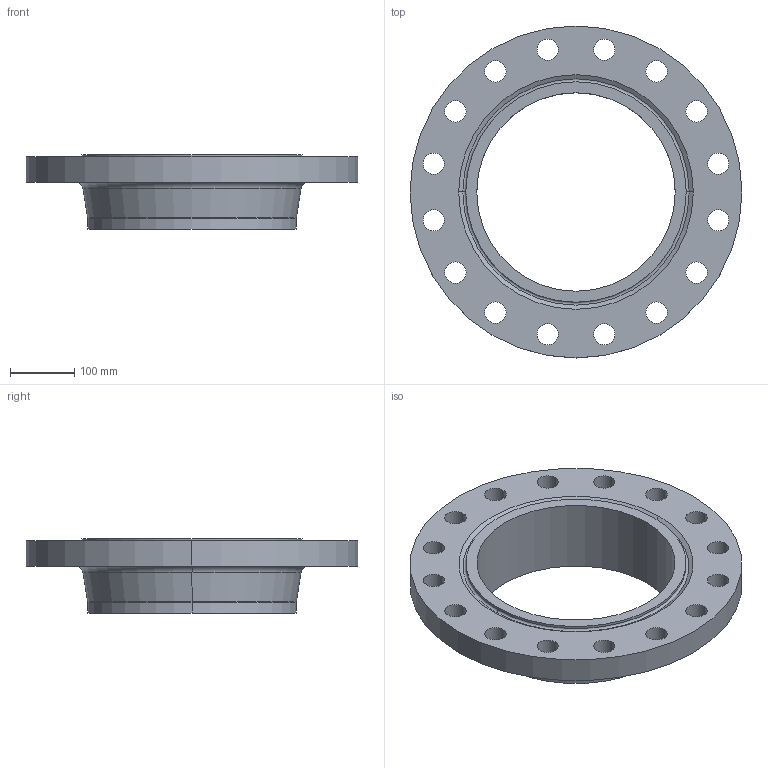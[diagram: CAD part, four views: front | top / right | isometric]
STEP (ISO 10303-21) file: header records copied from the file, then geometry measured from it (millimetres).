
FILE_DESCRIPTION (( 'STEP AP214' ), '1' );
FILE_NAME ('PN40 DN300 Type 11 - Type H Face.STEP', '2019-01-05T20:22:20', ( '' ), ( '' ), 'SwSTEP 2.0', 'SolidWorks 2019', '' );
FILE_SCHEMA (( 'AUTOMOTIVE_DESIGN' ));
Length unit declared in the file: millimetre
Products named in the file (1): PN40 DN300 Type 11 - Type H Face
Bounding box: 515 x 515 x 115 mm (x, y, z)
Volume: 5612658 mm3; surface area: 552150.3 mm2
Topology: 1 solids, 1 shells, 54 faces, 140 edges, 90 vertices
Faces by surface type: cylinder 40, torus 6, cone 4, plane 4
Entity records: 1802 total; most frequent: DIRECTION 346, CARTESIAN_POINT 285, ORIENTED_EDGE 280, AXIS2_PLACEMENT_3D 151, EDGE_CURVE 140, CIRCLE 96, EDGE_LOOP 90, VERTEX_POINT 90
